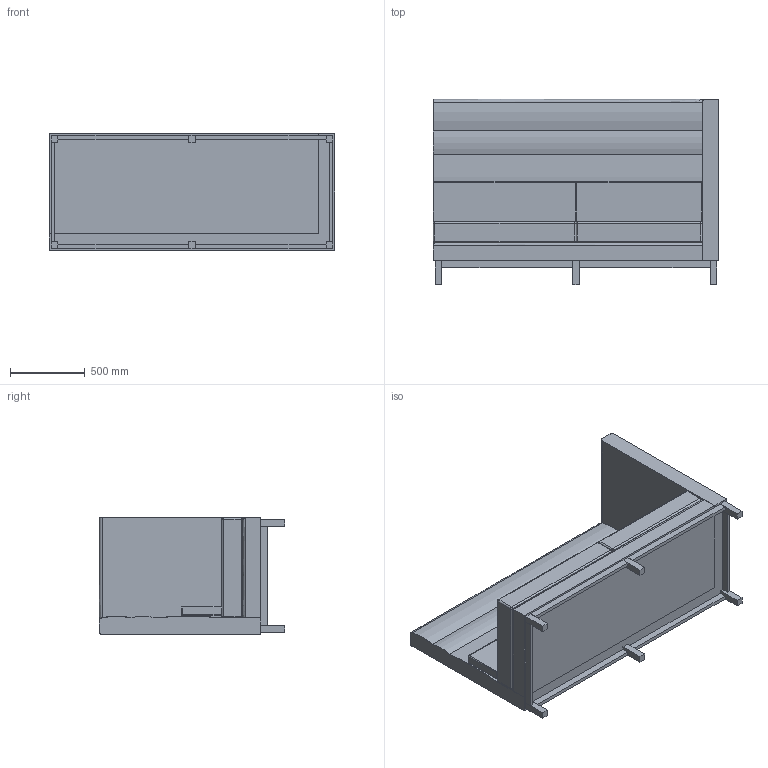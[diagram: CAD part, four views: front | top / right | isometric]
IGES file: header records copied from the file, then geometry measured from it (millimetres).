
Start section: SolidWorks IGES file using analytic representation for surfaces
Global section: file name: P:\3D CAD BLOCKS\ARTHUR CITYSCAPE\HB Bumped Compact LH\IGS\ART-HB-BUMP-COMP-LHART-CITY-LH.IGS; native system: SolidWorks 2012; preprocessor: SolidWorks 2012; author: tom; date: 160523.090558; units: millimetre
Bounding box: 1910 x 1240 x 780 mm (x, y, z)
Surface area: 14666094.7 mm2 (no closed solid volume)
Topology: 0 solids, 0 shells, 199 faces, 940 edges, 929 vertices
Faces by surface type: bspline 110, revolution 89
